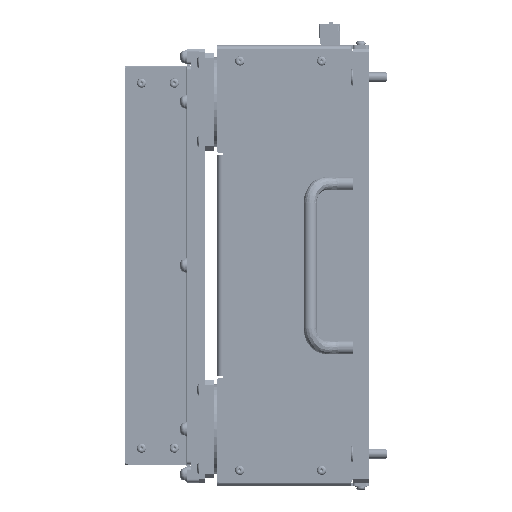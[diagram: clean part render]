
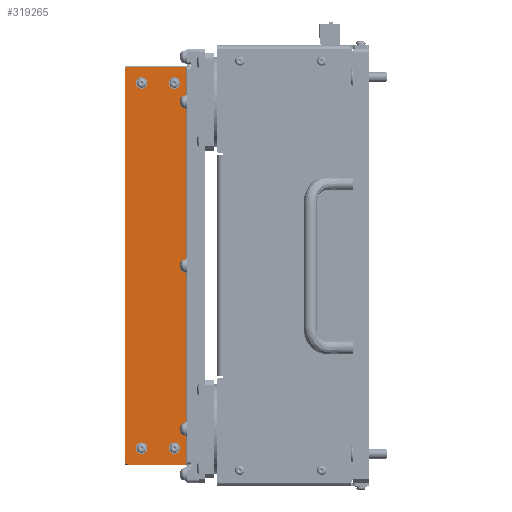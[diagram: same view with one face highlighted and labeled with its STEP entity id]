
A CAD part, left-side view. The second image highlights one B-rep face of the part: STEP entity #319265.
In plain terms, the highlighted planar face has unit normal (-1, 0, 0).
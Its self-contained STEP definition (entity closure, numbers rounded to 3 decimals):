
#5031 = EDGE_CURVE ( 'NONE', #632012, #169501, #269799, .T. ) ;
#7441 = AXIS2_PLACEMENT_3D ( 'NONE', #440055, #334597, #33544 ) ;
#8555 = VERTEX_POINT ( 'NONE', #261616 ) ;
#12887 = EDGE_LOOP ( 'NONE', ( #173693, #275750 ) ) ;
#25273 = EDGE_LOOP ( 'NONE', ( #471917, #185286 ) ) ;
#33069 = AXIS2_PLACEMENT_3D ( 'NONE', #81846, #383037, #580754 ) ;
#33544 = DIRECTION ( 'NONE',  ( 0., 0., -1. ) ) ;
#36901 = EDGE_CURVE ( 'NONE', #526796, #210470, #644137, .T. ) ;
#52280 = EDGE_CURVE ( 'NONE', #571747, #206365, #247670, .T. ) ;
#62042 = VERTEX_POINT ( 'NONE', #191280 ) ;
#69568 = CARTESIAN_POINT ( 'NONE',  ( -182.155, 69., -60.425 ) ) ;
#75495 = AXIS2_PLACEMENT_3D ( 'NONE', #239821, #542964, #237669 ) ;
#81846 = CARTESIAN_POINT ( 'NONE',  ( -182.155, 89., -58.725 ) ) ;
#83801 = CIRCLE ( 'NONE', #395310, 1.7 ) ;
#84848 = ORIENTED_EDGE ( 'NONE', *, *, #226212, .F. ) ;
#88178 = CARTESIAN_POINT ( 'NONE',  ( -182.155, 62., -68.725 ) ) ;
#90547 = VECTOR ( 'NONE', #372266, 1000. ) ;
#94120 = EDGE_CURVE ( 'NONE', #169501, #8555, #454485, .T. ) ;
#94433 = VERTEX_POINT ( 'NONE', #263845 ) ;
#94844 = ORIENTED_EDGE ( 'NONE', *, *, #52280, .F. ) ;
#102844 = FACE_OUTER_BOUND ( 'NONE', #518769, .T. ) ;
#109157 = EDGE_CURVE ( 'NONE', #130792, #167521, #83801, .T. ) ;
#109684 = EDGE_CURVE ( 'NONE', #8555, #206365, #483185, .T. ) ;
#115355 = DIRECTION ( 'NONE',  ( -1., 0., 0. ) ) ;
#123991 = DIRECTION ( 'NONE',  ( 0., 0., 1. ) ) ;
#130792 = VERTEX_POINT ( 'NONE', #69568 ) ;
#138398 = CARTESIAN_POINT ( 'NONE',  ( -182.155, 69., 165.975 ) ) ;
#144626 = DIRECTION ( 'NONE',  ( -1., 0., 0. ) ) ;
#146791 = DIRECTION ( 'NONE',  ( -1., 0., 0. ) ) ;
#167521 = VERTEX_POINT ( 'NONE', #350093 ) ;
#167623 = DIRECTION ( 'NONE',  ( 0., 0., -1. ) ) ;
#169501 = VERTEX_POINT ( 'NONE', #280132 ) ;
#173693 = ORIENTED_EDGE ( 'NONE', *, *, #461283, .F. ) ;
#175251 = VECTOR ( 'NONE', #389219, 1000. ) ;
#179752 = CIRCLE ( 'NONE', #539208, 1.7 ) ;
#180612 = EDGE_CURVE ( 'NONE', #210470, #526796, #485971, .T. ) ;
#185286 = ORIENTED_EDGE ( 'NONE', *, *, #36901, .F. ) ;
#185407 = CARTESIAN_POINT ( 'NONE',  ( -182.155, 69., 164.275 ) ) ;
#191280 = CARTESIAN_POINT ( 'NONE',  ( -182.155, 89., -57.025 ) ) ;
#192024 = EDGE_LOOP ( 'NONE', ( #534557, #285581 ) ) ;
#197469 = FACE_BOUND ( 'NONE', #25273, .T. ) ;
#206365 = VERTEX_POINT ( 'NONE', #88178 ) ;
#210470 = VERTEX_POINT ( 'NONE', #495522 ) ;
#215148 = EDGE_CURVE ( 'NONE', #571747, #253785, #473128, .T. ) ;
#215630 = DIRECTION ( 'NONE',  ( 0., -1., 0. ) ) ;
#226212 = EDGE_CURVE ( 'NONE', #94433, #414791, #500932, .T. ) ;
#226491 = DIRECTION ( 'NONE',  ( 0., 1., 0. ) ) ;
#229845 = AXIS2_PLACEMENT_3D ( 'NONE', #412084, #115355, #361645 ) ;
#236145 = ORIENTED_EDGE ( 'NONE', *, *, #94120, .T. ) ;
#237669 = DIRECTION ( 'NONE',  ( 0., 0., 1. ) ) ;
#239821 = CARTESIAN_POINT ( 'NONE',  ( -182.155, 89., 164.275 ) ) ;
#246578 = CARTESIAN_POINT ( 'NONE',  ( -182.155, 62., 174.275 ) ) ;
#247670 = LINE ( 'NONE', #576356, #90547 ) ;
#253785 = VERTEX_POINT ( 'NONE', #580432 ) ;
#257326 = CIRCLE ( 'NONE', #229845, 1.7 ) ;
#259116 = EDGE_CURVE ( 'NONE', #167521, #130792, #257326, .T. ) ;
#261616 = CARTESIAN_POINT ( 'NONE',  ( -182.155, 97., -68.725 ) ) ;
#263845 = CARTESIAN_POINT ( 'NONE',  ( -182.155, 69., 162.575 ) ) ;
#268858 = ORIENTED_EDGE ( 'NONE', *, *, #378628, .F. ) ;
#269799 = LINE ( 'NONE', #498883, #175251 ) ;
#275750 = ORIENTED_EDGE ( 'NONE', *, *, #571655, .F. ) ;
#280132 = CARTESIAN_POINT ( 'NONE',  ( -182.155, 99., -66.725 ) ) ;
#285581 = ORIENTED_EDGE ( 'NONE', *, *, #109157, .F. ) ;
#288442 = DIRECTION ( 'NONE',  ( -1., 0., 0. ) ) ;
#319265 = ADVANCED_FACE ( 'NONE', ( #480635, #488094, #197469, #590113, #102844 ), #420264, .F. ) ;
#323207 = AXIS2_PLACEMENT_3D ( 'NONE', #367608, #514802, #167623 ) ;
#334597 = DIRECTION ( 'NONE',  ( -1., 0., 0. ) ) ;
#341246 = DIRECTION ( 'NONE',  ( 0., 0., 1. ) ) ;
#345309 = DIRECTION ( 'NONE',  ( 0., 0., -1. ) ) ;
#346262 = CIRCLE ( 'NONE', #558439, 2. ) ;
#346733 = DIRECTION ( 'NONE',  ( 0., 0., 1. ) ) ;
#347659 = CARTESIAN_POINT ( 'NONE',  ( -182.155, 89., 162.575 ) ) ;
#348915 = DIRECTION ( 'NONE',  ( 0., 0., 1. ) ) ;
#350093 = CARTESIAN_POINT ( 'NONE',  ( -182.155, 69., -57.025 ) ) ;
#361645 = DIRECTION ( 'NONE',  ( 0., 0., 1. ) ) ;
#367608 = CARTESIAN_POINT ( 'NONE',  ( -182.155, 79., 52.775 ) ) ;
#372266 = DIRECTION ( 'NONE',  ( 0., 0., -1. ) ) ;
#377417 = CARTESIAN_POINT ( 'NONE',  ( -182.155, 89., -60.425 ) ) ;
#378628 = EDGE_CURVE ( 'NONE', #414791, #94433, #471235, .T. ) ;
#380775 = ORIENTED_EDGE ( 'NONE', *, *, #215148, .T. ) ;
#383037 = DIRECTION ( 'NONE',  ( -1., 0., 0. ) ) ;
#386594 = VECTOR ( 'NONE', #226491, 1000. ) ;
#388578 = VECTOR ( 'NONE', #215630, 1000. ) ;
#389219 = DIRECTION ( 'NONE',  ( 0., 0., -1. ) ) ;
#394126 = AXIS2_PLACEMENT_3D ( 'NONE', #185407, #288442, #341246 ) ;
#395310 = AXIS2_PLACEMENT_3D ( 'NONE', #521731, #622687, #123991 ) ;
#397886 = DIRECTION ( 'NONE',  ( -1., 0., 0. ) ) ;
#412084 = CARTESIAN_POINT ( 'NONE',  ( -182.155, 69., -58.725 ) ) ;
#414791 = VERTEX_POINT ( 'NONE', #138398 ) ;
#414951 = AXIS2_PLACEMENT_3D ( 'NONE', #496125, #144626, #346733 ) ;
#420264 = PLANE ( 'NONE',  #323207 ) ;
#428276 = AXIS2_PLACEMENT_3D ( 'NONE', #648223, #397886, #547240 ) ;
#440055 = CARTESIAN_POINT ( 'NONE',  ( -182.155, 97., -66.725 ) ) ;
#454485 = CIRCLE ( 'NONE', #7441, 2. ) ;
#455330 = ORIENTED_EDGE ( 'NONE', *, *, #109684, .T. ) ;
#461283 = EDGE_CURVE ( 'NONE', #62042, #532432, #179752, .T. ) ;
#463896 = ORIENTED_EDGE ( 'NONE', *, *, #5031, .T. ) ;
#464101 = CARTESIAN_POINT ( 'NONE',  ( -182.155, 59., -68.725 ) ) ;
#469322 = EDGE_CURVE ( 'NONE', #253785, #632012, #346262, .T. ) ;
#471235 = CIRCLE ( 'NONE', #414951, 1.7 ) ;
#471917 = ORIENTED_EDGE ( 'NONE', *, *, #180612, .F. ) ;
#473128 = LINE ( 'NONE', #477045, #386594 ) ;
#477045 = CARTESIAN_POINT ( 'NONE',  ( -182.155, 59., 174.275 ) ) ;
#480635 = FACE_BOUND ( 'NONE', #12887, .T. ) ;
#483185 = LINE ( 'NONE', #464101, #388578 ) ;
#485971 = CIRCLE ( 'NONE', #428276, 1.7 ) ;
#488094 = FACE_BOUND ( 'NONE', #192024, .T. ) ;
#488195 = DIRECTION ( 'NONE',  ( -1., 0., 0. ) ) ;
#495522 = CARTESIAN_POINT ( 'NONE',  ( -182.155, 89., 165.975 ) ) ;
#496125 = CARTESIAN_POINT ( 'NONE',  ( -182.155, 69., 164.275 ) ) ;
#498883 = CARTESIAN_POINT ( 'NONE',  ( -182.155, 99., -68.725 ) ) ;
#500932 = CIRCLE ( 'NONE', #394126, 1.7 ) ;
#514802 = DIRECTION ( 'NONE',  ( 1., 0., 0. ) ) ;
#518769 = EDGE_LOOP ( 'NONE', ( #463896, #236145, #455330, #94844, #380775, #631982 ) ) ;
#519722 = EDGE_LOOP ( 'NONE', ( #268858, #84848 ) ) ;
#521731 = CARTESIAN_POINT ( 'NONE',  ( -182.155, 69., -58.725 ) ) ;
#526796 = VERTEX_POINT ( 'NONE', #347659 ) ;
#532432 = VERTEX_POINT ( 'NONE', #377417 ) ;
#534557 = ORIENTED_EDGE ( 'NONE', *, *, #259116, .F. ) ;
#539208 = AXIS2_PLACEMENT_3D ( 'NONE', #550962, #146791, #348915 ) ;
#542964 = DIRECTION ( 'NONE',  ( -1., 0., 0. ) ) ;
#547240 = DIRECTION ( 'NONE',  ( 0., 0., 1. ) ) ;
#550962 = CARTESIAN_POINT ( 'NONE',  ( -182.155, 89., -58.725 ) ) ;
#558439 = AXIS2_PLACEMENT_3D ( 'NONE', #646145, #488195, #345309 ) ;
#564917 = CARTESIAN_POINT ( 'NONE',  ( -182.155, 99., 172.275 ) ) ;
#571655 = EDGE_CURVE ( 'NONE', #532432, #62042, #616993, .T. ) ;
#571747 = VERTEX_POINT ( 'NONE', #246578 ) ;
#576356 = CARTESIAN_POINT ( 'NONE',  ( -182.155, 62., 174.275 ) ) ;
#580432 = CARTESIAN_POINT ( 'NONE',  ( -182.155, 97., 174.275 ) ) ;
#580754 = DIRECTION ( 'NONE',  ( 0., 0., 1. ) ) ;
#590113 = FACE_BOUND ( 'NONE', #519722, .T. ) ;
#616993 = CIRCLE ( 'NONE', #33069, 1.7 ) ;
#622687 = DIRECTION ( 'NONE',  ( -1., 0., 0. ) ) ;
#631982 = ORIENTED_EDGE ( 'NONE', *, *, #469322, .T. ) ;
#632012 = VERTEX_POINT ( 'NONE', #564917 ) ;
#644137 = CIRCLE ( 'NONE', #75495, 1.7 ) ;
#646145 = CARTESIAN_POINT ( 'NONE',  ( -182.155, 97., 172.275 ) ) ;
#648223 = CARTESIAN_POINT ( 'NONE',  ( -182.155, 89., 164.275 ) ) ;
